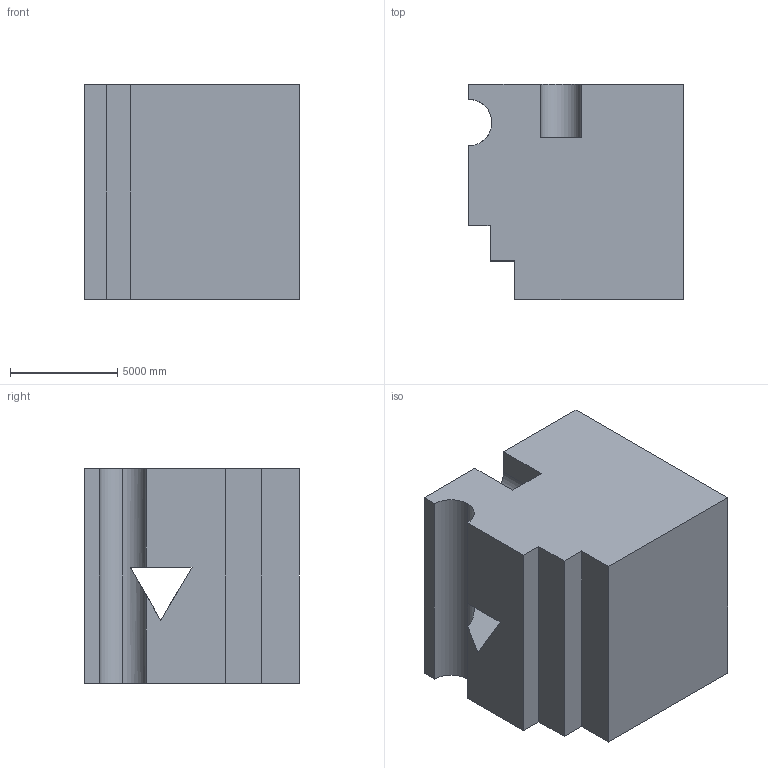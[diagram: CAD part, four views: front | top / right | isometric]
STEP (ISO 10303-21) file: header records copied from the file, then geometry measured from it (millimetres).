
FILE_DESCRIPTION (( 'STEP AP203' ), '1' );
FILE_NAME ('1539.STEP', '2022-08-18T15:10:10', ( 'user' ), ( '' ), 'SwSTEP 2.0', 'SolidWorks 2021', '' );
FILE_SCHEMA (( 'CONFIG_CONTROL_DESIGN' ));
Length unit declared in the file: centimetre
Products named in the file (1): 1539
Bounding box: 10000 x 10000 x 10000 mm (x, y, z)
Volume: 869847232537.3 mm3; surface area: 680171942.1 mm2
Topology: 1 solids, 1 shells, 25 faces, 75 edges, 50 vertices
Faces by surface type: plane 20, cylinder 5
Entity records: 921 total; most frequent: CARTESIAN_POINT 157, ORIENTED_EDGE 150, DIRECTION 136, EDGE_CURVE 75, VECTOR 62, LINE 62, VERTEX_POINT 50, AXIS2_PLACEMENT_3D 37
